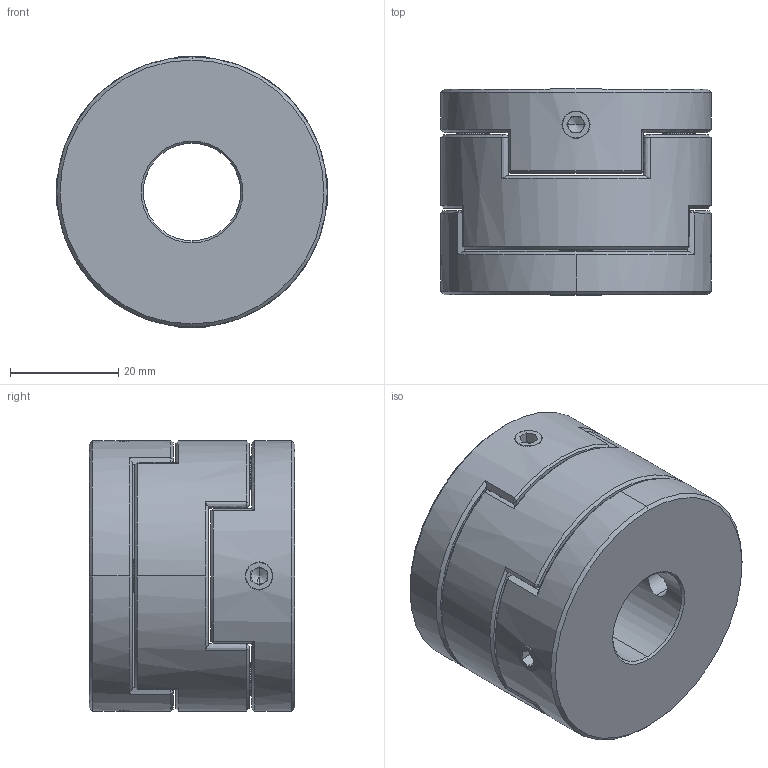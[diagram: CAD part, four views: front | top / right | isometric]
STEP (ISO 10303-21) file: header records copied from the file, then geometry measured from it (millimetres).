
FILE_DESCRIPTION (( 'STEP AP203' ), '1' );
FILE_NAME ('LZ-D-D50L38-18-20.STEP', '2021-10-30T05:49:48', ( '' ), ( '' ), 'SwSTEP 2.0', 'SolidWorks 2018', '' );
FILE_SCHEMA (( 'CONFIG_CONTROL_DESIGN' ));
Length unit declared in the file: millimetre
Products named in the file (1): LZ-D-D50L38-18-20
Bounding box: 50 x 38 x 50 mm (x, y, z)
Volume: 60297.8 mm3; surface area: 18365.3 mm2
Topology: 1 solids, 1 shells, 222 faces, 546 edges, 326 vertices
Faces by surface type: plane 88, bspline 54, cone 54, cylinder 26
Entity records: 7526 total; most frequent: CARTESIAN_POINT 2764, ORIENTED_EDGE 1076, DIRECTION 798, EDGE_CURVE 538, VERTEX_POINT 326, AXIS2_PLACEMENT_3D 289, EDGE_LOOP 248, FACE_OUTER_BOUND 222
